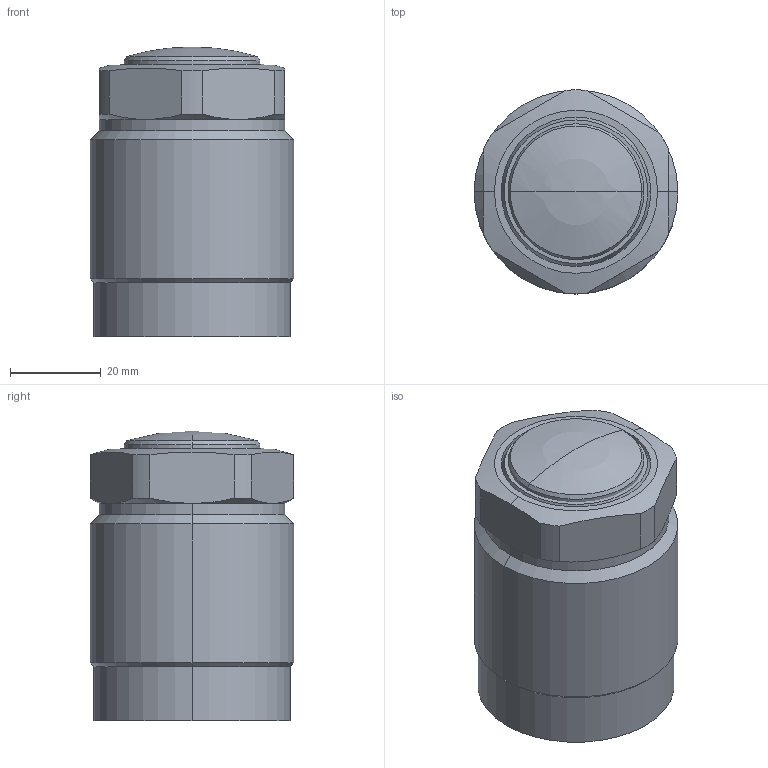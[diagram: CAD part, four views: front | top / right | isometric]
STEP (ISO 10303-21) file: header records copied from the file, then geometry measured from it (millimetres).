
FILE_DESCRIPTION((' '),'2;1');
FILE_NAME( 'TGP45-RM.x_t.stp', '2025-02-10T16:03:56', (' '), ('--- Datakit www.datakit.com---'), ' Datakit CrossCadWare V2024.1 Dec 21 2023', 'Mastercam 2025', ' ');
FILE_SCHEMA(('AUTOMOTIVE_DESIGN { 1 0 10303 214 1 1 1 1 }'));
Length unit declared in the file: millimetre
Products named in the file (1): TGP45-RM
Bounding box: 45 x 45 x 64 mm (x, y, z)
Volume: 102732.1 mm3; surface area: 15607.6 mm2
Topology: 2 solids, 2 shells, 61 faces, 142 edges, 88 vertices
Faces by surface type: cylinder 26, plane 15, cone 14, torus 4, sphere 2
Entity records: 1850 total; most frequent: CARTESIAN_POINT 416, DIRECTION 322, ORIENTED_EDGE 276, EDGE_CURVE 138, AXIS2_PLACEMENT_3D 138, VERTEX_POINT 88, CIRCLE 76, EDGE_LOOP 68
